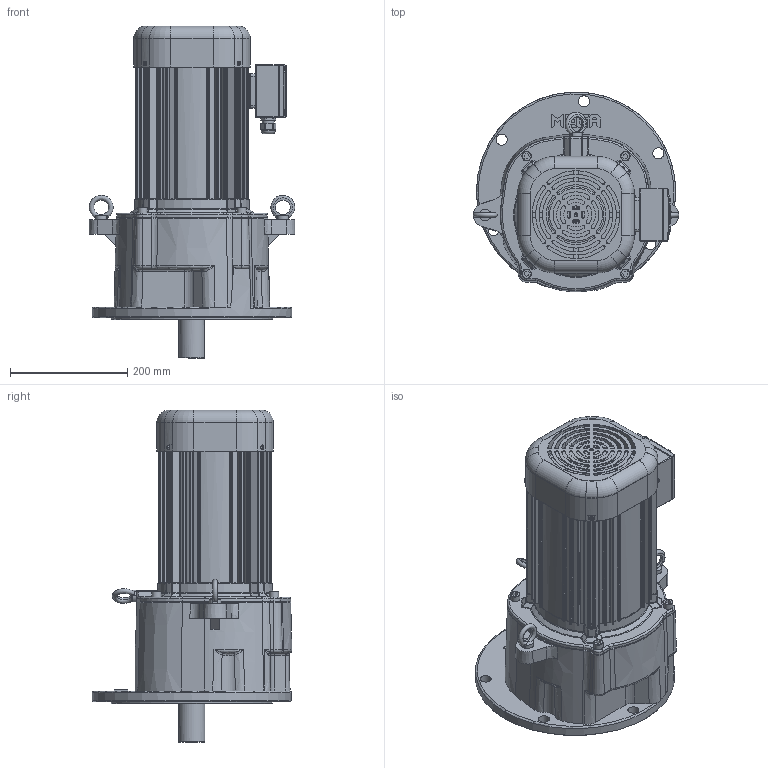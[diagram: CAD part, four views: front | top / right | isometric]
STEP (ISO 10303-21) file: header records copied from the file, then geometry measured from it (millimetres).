
FILE_DESCRIPTION(/* description */ (''),/* implementation_level */ '2;1');
FILE_NAME(/* name */ 'Z:\동력 3D 파일\PMK172_2.2kW_3D.stp',/* time_stamp */ '2021-12-01T09:06:16+09:00',/* author */ ('jaebok'),/* organization */ (''),/* preprocessor_version */ 'ST-DEVELOPER v18.1',/* originating_system */ 'Autodesk Inventor 2022',/* authorisation */ '');
FILE_SCHEMA (('AUTOMOTIVE_DESIGN { 1 0 10303 214 3 1 1 }'));
Length unit declared in the file: millimetre
Products named in the file (1): 부품6
Bounding box: 351.17 x 341.06 x 566.5 mm (x, y, z)
Volume: 7369299.6 mm3; surface area: 1440875.8 mm2
Topology: 2 solids, 35 shells, 3298 faces, 8459 edges, 5224 vertices
Faces by surface type: plane 1119, cylinder 838, bspline 781, torus 284, cone 236, sphere 40
Full cylindrical faces by diameter (mm): 3.25 x1, 3.5 x4, 3.6 x4, 4 x21, 5 x13, 6 x5, 6.8 x4, 7 x8, 8 x8, 8.376 x6, 8.4 x1, 8.8 x3, 9 x4, 10 x7, 11 x4, 12.5 x1, 15 x1, 16 x4, 19 x6, 20 x2, 21 x1, 23.5 x1, 23.6 x1, 25 x4, 31 x1, 36 x2, 45 x1, 48 x1, 50 x2, 52 x4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
Entity records: 127683 total; most frequent: CARTESIAN_POINT 48670, ORIENTED_EDGE 16690, DIRECTION 14573, EDGE_CURVE 8345, AXIS2_PLACEMENT_3D 5785, VERTEX_POINT 5224, EDGE_LOOP 3541, FACE_OUTER_BOUND 3298
